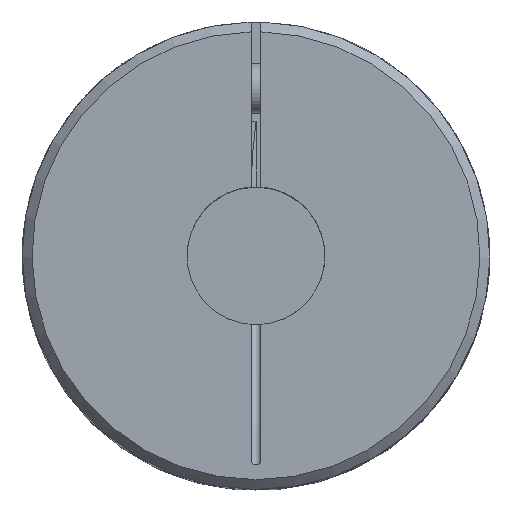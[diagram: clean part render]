
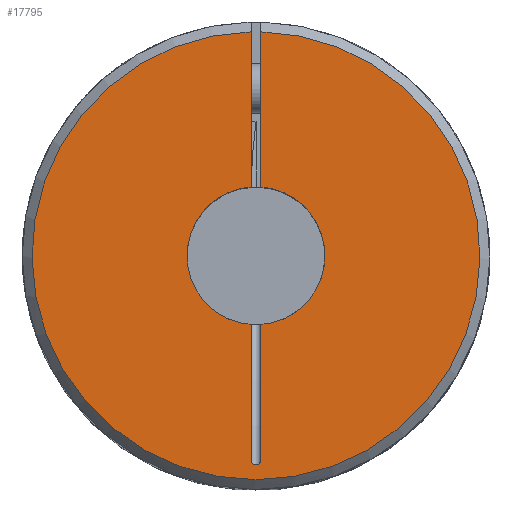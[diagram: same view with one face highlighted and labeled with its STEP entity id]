
A CAD part, top view. The second image highlights one B-rep face of the part: STEP entity #17795.
In plain terms, the highlighted planar face has unit normal (0, 0, 1).
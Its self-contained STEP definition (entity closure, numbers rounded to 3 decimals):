
#6037=CARTESIAN_POINT('',(-1.,45.489,63.));
#6044=CARTESIAN_POINT('',(0.,0.,63.));
#6045=DIRECTION('',(0.,0.,1.));
#6046=DIRECTION('',(-0.022,1.,0.));
#6047=AXIS2_PLACEMENT_3D('',#6044,#6045,#6046);
#6054=CARTESIAN_POINT('',(1.,45.489,63.));
#6200=CARTESIAN_POINT('',(0.,0.,63.));
#6201=DIRECTION('',(0.,0.,1.));
#6202=DIRECTION('',(-0.071,0.997,0.));
#6203=AXIS2_PLACEMENT_3D('',#6200,#6201,#6202);
#6205=DIRECTION('',(0.,-1.,0.));
#6206=VECTOR('',#6205,27.388);
#6207=CARTESIAN_POINT('',(-1.,-13.964,63.));
#6208=LINE('',#6207,#6206);
#6209=CARTESIAN_POINT('',(-1.,-41.352,63.));
#6210=CARTESIAN_POINT('',(-1.,-41.442,63.));
#6211=CARTESIAN_POINT('',(-0.982,-41.613,63.));
#6212=CARTESIAN_POINT('',(-0.908,-41.856,63.));
#6213=CARTESIAN_POINT('',(-0.791,-42.069,63.));
#6214=CARTESIAN_POINT('',(-0.644,-42.242,63.));
#6215=CARTESIAN_POINT('',(-0.473,-42.372,63.));
#6216=CARTESIAN_POINT('',(-0.289,-42.459,63.));
#6217=CARTESIAN_POINT('',(-0.098,-42.502,63.));
#6218=CARTESIAN_POINT('',(0.098,-42.502,63.));
#6219=CARTESIAN_POINT('',(0.289,-42.459,63.));
#6220=CARTESIAN_POINT('',(0.473,-42.372,63.));
#6221=CARTESIAN_POINT('',(0.644,-42.242,63.));
#6222=CARTESIAN_POINT('',(0.791,-42.069,63.));
#6223=CARTESIAN_POINT('',(0.908,-41.856,63.));
#6224=CARTESIAN_POINT('',(0.982,-41.613,63.));
#6225=CARTESIAN_POINT('',(1.,-41.442,63.));
#6226=CARTESIAN_POINT('',(1.,-41.352,63.));
#6228=DIRECTION('',(0.,-1.,0.));
#6229=VECTOR('',#6228,27.388);
#6230=CARTESIAN_POINT('',(1.,-13.964,63.));
#6231=LINE('',#6230,#6229);
#6232=CARTESIAN_POINT('',(0.,0.,63.));
#6233=DIRECTION('',(0.,0.,1.));
#6234=DIRECTION('',(0.071,-0.997,0.));
#6235=AXIS2_PLACEMENT_3D('',#6232,#6233,#6234);
#6237=DIRECTION('',(0.,-1.,0.));
#6238=VECTOR('',#6237,31.525);
#6239=CARTESIAN_POINT('',(1.,45.489,63.));
#6240=LINE('',#6239,#6238);
#6241=DIRECTION('',(0.,-1.,0.));
#6242=VECTOR('',#6241,31.525);
#6243=CARTESIAN_POINT('',(-1.,45.489,63.));
#6244=LINE('',#6243,#6242);
#7078=VERTEX_POINT('',#6054);
#7079=VERTEX_POINT('',#6037);
#7082=VERTEX_POINT('',#6209);
#7083=VERTEX_POINT('',#6226);
#7101=CARTESIAN_POINT('',(1.,-13.964,63.));
#7103=VERTEX_POINT('',#7101);
#7104=CARTESIAN_POINT('',(1.,13.964,63.));
#7105=VERTEX_POINT('',#7104);
#7106=CARTESIAN_POINT('',(-1.,13.964,63.));
#7107=VERTEX_POINT('',#7106);
#7109=CARTESIAN_POINT('',(-1.,-13.964,63.));
#7111=VERTEX_POINT('',#7109);
#17777=CARTESIAN_POINT('',(0.,0.,63.));
#17778=DIRECTION('',(0.,0.,-1.));
#17779=DIRECTION('',(1.,0.,0.));
#17780=AXIS2_PLACEMENT_3D('',#17777,#17778,#17779);
#17781=PLANE('',#17780);
#17782=ORIENTED_EDGE('',*,*,#17621,.T.);
#17784=ORIENTED_EDGE('',*,*,#17783,.T.);
#17786=ORIENTED_EDGE('',*,*,#17785,.T.);
#17788=ORIENTED_EDGE('',*,*,#17787,.F.);
#17789=ORIENTED_EDGE('',*,*,#17613,.T.);
#17790=ORIENTED_EDGE('',*,*,#17766,.F.);
#17791=ORIENTED_EDGE('',*,*,#17562,.F.);
#17792=ORIENTED_EDGE('',*,*,#17583,.T.);
#17793=EDGE_LOOP('',(#17782,#17784,#17786,#17788,#17789,#17790,#17791,#17792));
#17794=FACE_OUTER_BOUND('',#17793,.F.);
#17795=ADVANCED_FACE('',(#17794),#17781,.F.);
#6048=CIRCLE('',#6047,45.5);
#6204=CIRCLE('',#6203,14.);
#6227=B_SPLINE_CURVE_WITH_KNOTS('',3,(#6209,#6210,#6211,#6212,#6213,#6214,#6215,
#6216,#6217,#6218,#6219,#6220,#6221,#6222,#6223,#6224,#6225,#6226),
.UNSPECIFIED.,.F.,.F.,(4,1,1,1,1,1,1,1,1,1,1,1,1,1,1,4),(0.,0.067,
0.133,0.2,0.267,0.333,0.4,
0.467,0.533,0.6,0.667,0.733,
0.8,0.867,0.933,1.),.UNSPECIFIED.);
#6236=CIRCLE('',#6235,14.);
#17562=EDGE_CURVE('',#7079,#7078,#6048,.T.);
#17583=EDGE_CURVE('',#7079,#7107,#6244,.T.);
#17613=EDGE_CURVE('',#7103,#7105,#6236,.T.);
#17621=EDGE_CURVE('',#7107,#7111,#6204,.T.);
#17766=EDGE_CURVE('',#7078,#7105,#6240,.T.);
#17783=EDGE_CURVE('',#7111,#7082,#6208,.T.);
#17785=EDGE_CURVE('',#7082,#7083,#6227,.T.);
#17787=EDGE_CURVE('',#7103,#7083,#6231,.T.);
